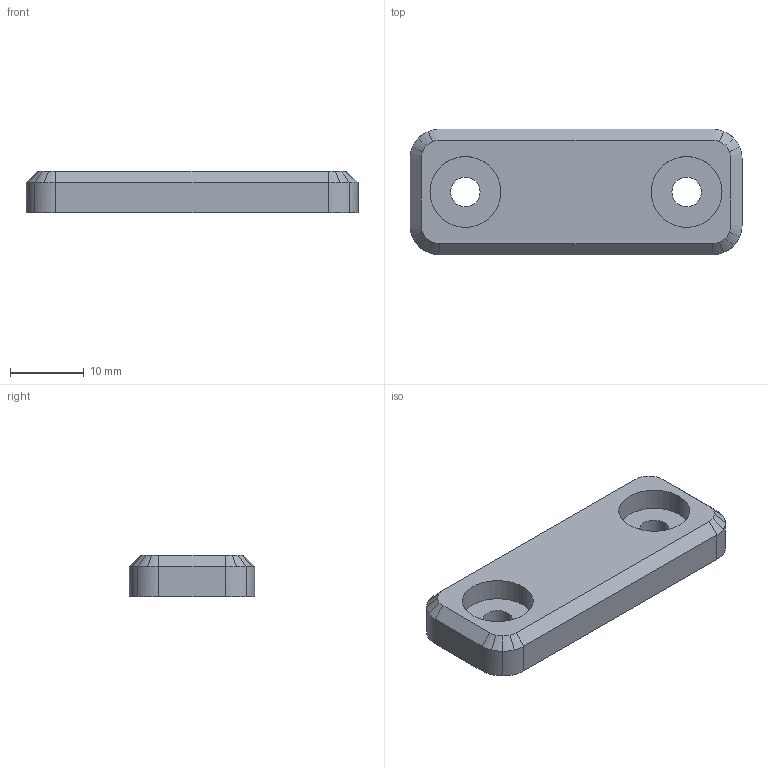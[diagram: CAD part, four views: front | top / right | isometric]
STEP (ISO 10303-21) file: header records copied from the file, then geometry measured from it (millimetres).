
FILE_DESCRIPTION((''),'2;1');
FILE_NAME('6470.32.stp','2023-10-12T13:07:51',(''),(''),'Mechanical Desktop 2006','Mechanical Desktop 2006',', , ');
FILE_SCHEMA(('CONFIG_CONTROL_DESIGN'));
Length unit declared in the file: millimetre
Products named in the file (3): 6470.32; 1; 1A
Assembly tree (1 placements, depth 2):
  6470.32
    1
  1A
Bounding box: 45 x 17 x 5.6 mm (x, y, z)
Volume: 3579.2 mm3; surface area: 2248.6 mm2
Topology: 1 solids, 1 shells, 44 faces, 108 edges, 68 vertices
Faces by surface type: cone 16, cylinder 12, plane 11, bspline 5
Entity records: 1579 total; most frequent: CARTESIAN_POINT 298, DIRECTION 244, ORIENTED_EDGE 216, EDGE_CURVE 108, AXIS2_PLACEMENT_3D 98, VERTEX_POINT 68, CIRCLE 56, EDGE_LOOP 50
